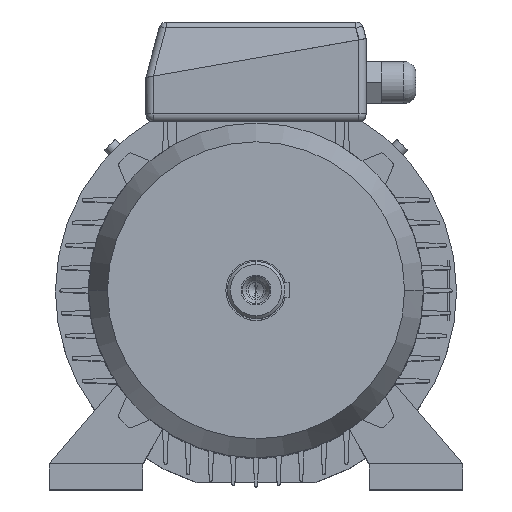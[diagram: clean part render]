
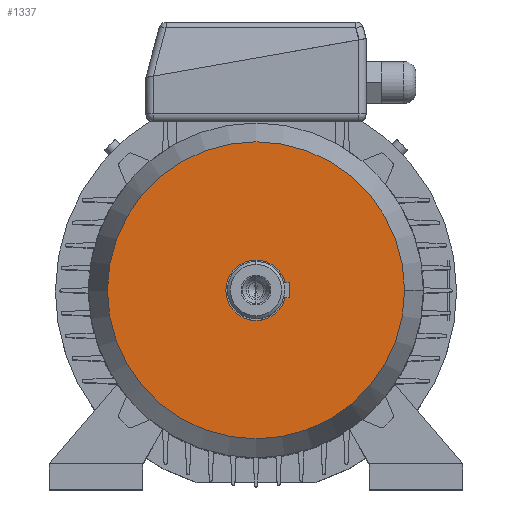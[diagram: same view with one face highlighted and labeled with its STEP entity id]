
A CAD part, top view. The second image highlights one B-rep face of the part: STEP entity #1337.
In plain terms, the highlighted planar face has unit normal (0, 0, 1).
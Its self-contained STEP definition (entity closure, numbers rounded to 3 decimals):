
#41 = VERTEX_POINT ( 'NONE', #2035 ) ;
#117 = VERTEX_POINT ( 'NONE', #2190 ) ;
#191 = EDGE_CURVE ( 'NONE', #41, #117, #2373, .T. ) ;
#962 = EDGE_LOOP ( 'NONE', ( #3985, #1045 ) ) ;
#1045 = ORIENTED_EDGE ( 'NONE', *, *, #8629, .F. ) ;
#1337 = ADVANCED_FACE ( 'NONE', ( #4947 ), #4948, .T. ) ;
#2035 = CARTESIAN_POINT ( 'NONE',  ( -98.5, 0., 47. ) ) ;
#2190 = CARTESIAN_POINT ( 'NONE',  ( 98.5, 0., 47. ) ) ;
#2373 = CIRCLE ( 'NONE', #2374, 98.5 ) ;
#2374 = AXIS2_PLACEMENT_3D ( 'NONE', #2375, #2376, #2377 ) ;
#2375 = CARTESIAN_POINT ( 'NONE',  ( 0., 0., 47. ) ) ;
#2376 = DIRECTION ( 'NONE',  ( 0., 0., -1. ) ) ;
#2377 = DIRECTION ( 'NONE',  ( -1., 0., 0. ) ) ;
#3985 = ORIENTED_EDGE ( 'NONE', *, *, #191, .F. ) ;
#4947 = FACE_OUTER_BOUND ( 'NONE', #962, .T. ) ;
#4948 = PLANE ( 'NONE',  #4949 ) ;
#4949 = AXIS2_PLACEMENT_3D ( 'NONE', #4950, #4951, #4952 ) ;
#4950 = CARTESIAN_POINT ( 'NONE',  ( 0., 98.5, 47. ) ) ;
#4951 = DIRECTION ( 'NONE',  ( 0., 0., 1. ) ) ;
#4952 = DIRECTION ( 'NONE',  ( 1., 0., 0. ) ) ;
#8629 = EDGE_CURVE ( 'NONE', #117, #41, #11031, .T. ) ;
#11031 = CIRCLE ( 'NONE', #11032, 98.5 ) ;
#11032 = AXIS2_PLACEMENT_3D ( 'NONE', #11033, #11034, #11035 ) ;
#11033 = CARTESIAN_POINT ( 'NONE',  ( 0., 0., 47. ) ) ;
#11034 = DIRECTION ( 'NONE',  ( 0., 0., -1. ) ) ;
#11035 = DIRECTION ( 'NONE',  ( -1., 0., 0. ) ) ;
